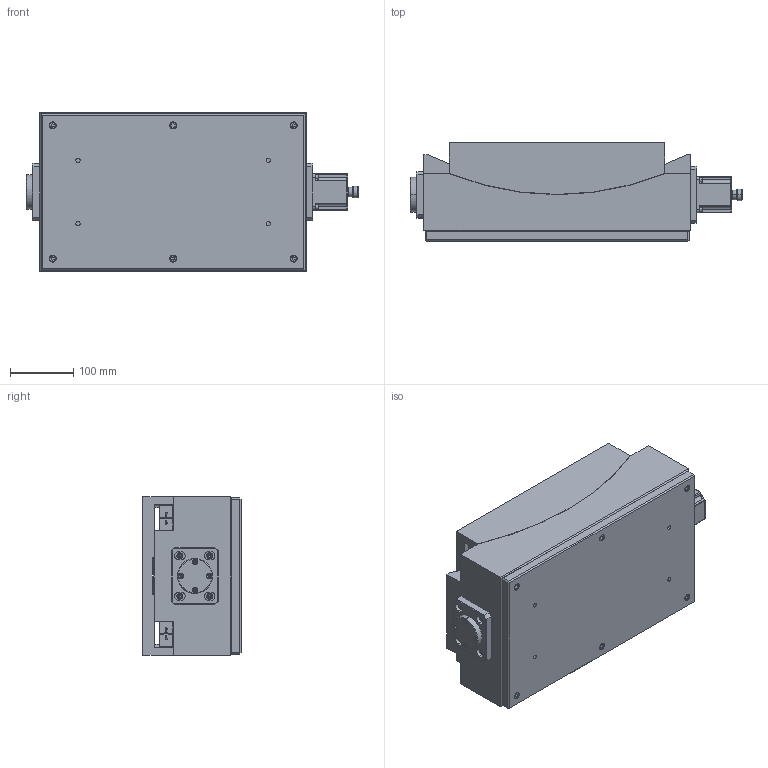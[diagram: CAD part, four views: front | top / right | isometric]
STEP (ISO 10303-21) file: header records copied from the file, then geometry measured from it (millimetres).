
FILE_DESCRIPTION (( 'STEP AP203' ), '1' );
FILE_NAME ('PSAG15-370.step', '2019-05-06T08:27:49', ( '' ), ( '' ), 'SwSTEP 2.0', 'SolidWorks 2017', '' );
FILE_SCHEMA (( 'CONFIG_CONTROL_DESIGN' ));
Length unit declared in the file: millimetre
Products named in the file (1): PSAG15-370
Bounding box: 523.5 x 155.01 x 250 mm (x, y, z)
Surface area: 762632.1 mm2 (no closed solid volume)
Topology: 0 solids, 45 shells, 685 faces, 2404 edges, 1732 vertices
Faces by surface type: plane 320, cylinder 252, cone 50, bspline 47, torus 16
Entity records: 29182 total; most frequent: CARTESIAN_POINT 8593, DIRECTION 4285, ORIENTED_EDGE 3715, EDGE_CURVE 2384, VERTEX_POINT 1732, AXIS2_PLACEMENT_3D 1430, LINE 1425, VECTOR 1425
